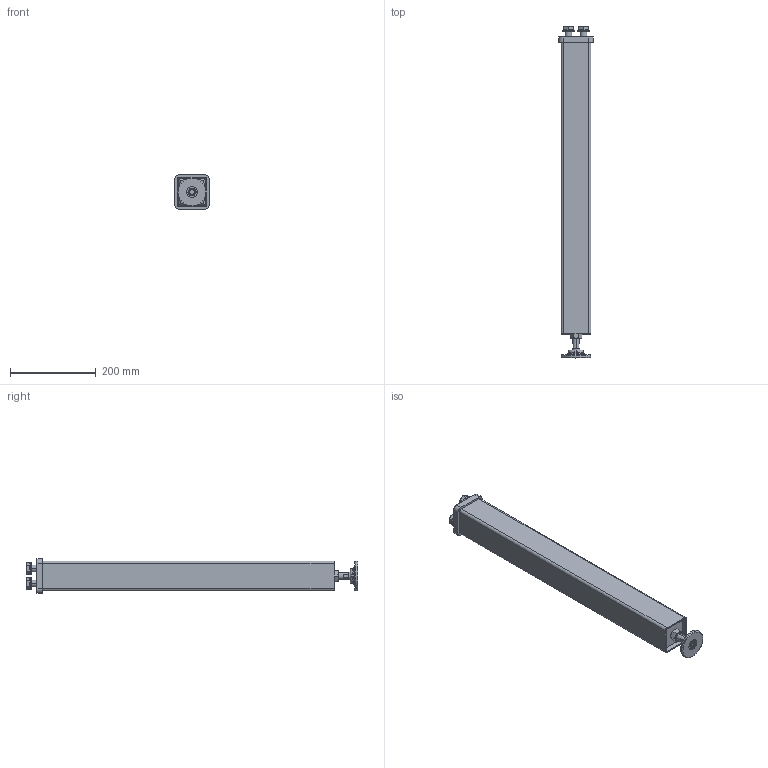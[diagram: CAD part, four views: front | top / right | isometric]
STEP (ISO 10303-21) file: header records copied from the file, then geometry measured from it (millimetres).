
FILE_DESCRIPTION (( 'STEP AP203' ), '1' );
FILE_NAME ('160858.STEP', '2020-07-10T07:35:21', ( '' ), ( '' ), 'SwSTEP 2.0', 'SolidWorks 2019', '' );
FILE_SCHEMA (( 'CONFIG_CONTROL_DESIGN' ));
Length unit declared in the file: millimetre
Products named in the file (12): M16x1,5 Spindel 100^160855.X.1 Verstelleinheit_ohne gew; 160858; Platte oben^160858.X.T1 Fuß Grundausstattung  Schweißteil_Fertigung; Teller 70^160855.X.1 Verstelleinheit; ISO 4032 - M12 - verzinkt_0; Aufnahme unten^160858.X.T1 Fuß Grundausstattung  Schweißteil; ISO 4017 - M16 x 50 - verzinkt_0; Federring DIN 127 B - 16 - verzinkt; 160855.X.1 Verstelleinheit_0; ISO 8673 M16x1,5 - verzinkt_0; Hohlprofil 70x70x3^160858.X.T1 Fuß Grundausstattung  Schweißteil_fertigung; 160858.X.T1 Fuß Grundausstattung  Schweißteil_Gesamt
Assembly tree (13 placements, depth 3):
  160858
    160858.X.T1 Fuß Grundausstattung  Schweißteil_Gesamt
      Hohlprofil 70x70x3^160858.X.T1 Fuß Grundausstattung  Schweißteil_fertigung
      Platte oben^160858.X.T1 Fuß Grundausstattung  Schweißteil_Fertigung
      Aufnahme unten^160858.X.T1 Fuß Grundausstattung  Schweißteil
    160855.X.1 Verstelleinheit_0
      Teller 70^160855.X.1 Verstelleinheit
      M16x1,5 Spindel 100^160855.X.1 Verstelleinheit_ohne gew
      ISO 4032 - M12 - verzinkt_0
    ISO 8673 M16x1,5 - verzinkt_0
    ISO 4017 - M16 x 50 - verzinkt_0  x2
    Federring DIN 127 B - 16 - verzinkt  x2
Bounding box: 80 x 775.5 x 80 mm (x, y, z)
Volume: 771318 mm3; surface area: 416135.6 mm2
Topology: 11 solids, 11 shells, 232 faces, 522 edges, 318 vertices
Faces by surface type: plane 92, cylinder 62, cone 60, torus 18
Entity records: 7018 total; most frequent: CARTESIAN_POINT 1285, DIRECTION 992, ORIENTED_EDGE 876, EDGE_CURVE 438, AXIS2_PLACEMENT_3D 403, VERTEX_POINT 268, EDGE_LOOP 214, FACE_OUTER_BOUND 193
